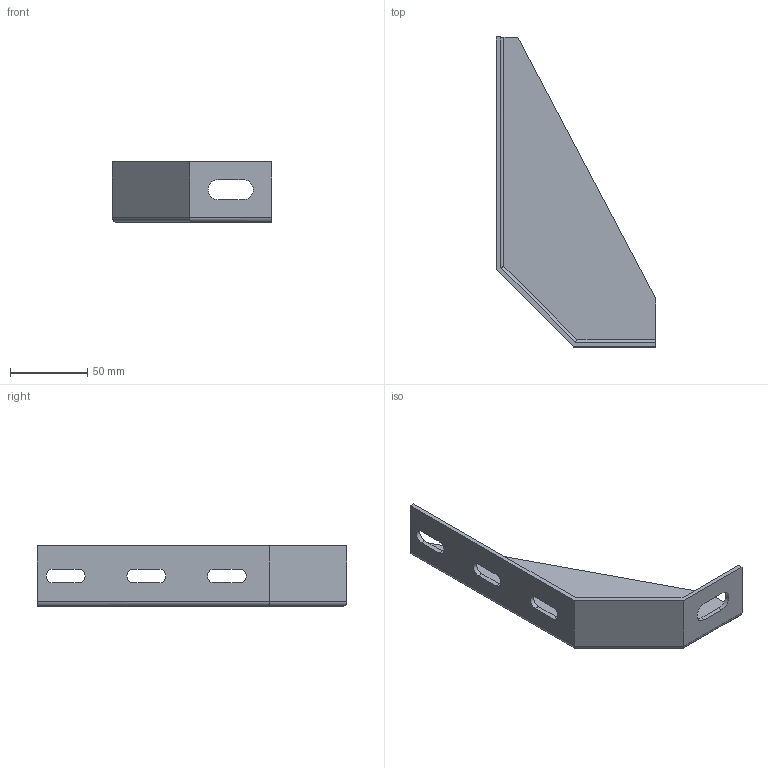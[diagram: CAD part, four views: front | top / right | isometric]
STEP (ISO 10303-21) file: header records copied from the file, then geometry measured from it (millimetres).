
FILE_DESCRIPTION (( 'STEP AP214' ), '1' );
FILE_NAME ('FBFA PC.step', '2017-04-05T08:02:39', ( '' ), ( '' ), 'SwSTEP 2.0', 'SolidWorks 2015', '' );
FILE_SCHEMA (( 'AUTOMOTIVE_DESIGN' ));
Length unit declared in the file: millimetre
Products named in the file (1): FBFA PC
Bounding box: 103 x 200 x 39 mm (x, y, z)
Volume: 61593.6 mm3; surface area: 43179.4 mm2
Topology: 1 solids, 1 shells, 38 faces, 104 edges, 68 vertices
Faces by surface type: plane 20, cylinder 18
Entity records: 1254 total; most frequent: CARTESIAN_POINT 223, ORIENTED_EDGE 208, DIRECTION 206, EDGE_CURVE 104, VECTOR 72, LINE 72, VERTEX_POINT 68, AXIS2_PLACEMENT_3D 67
